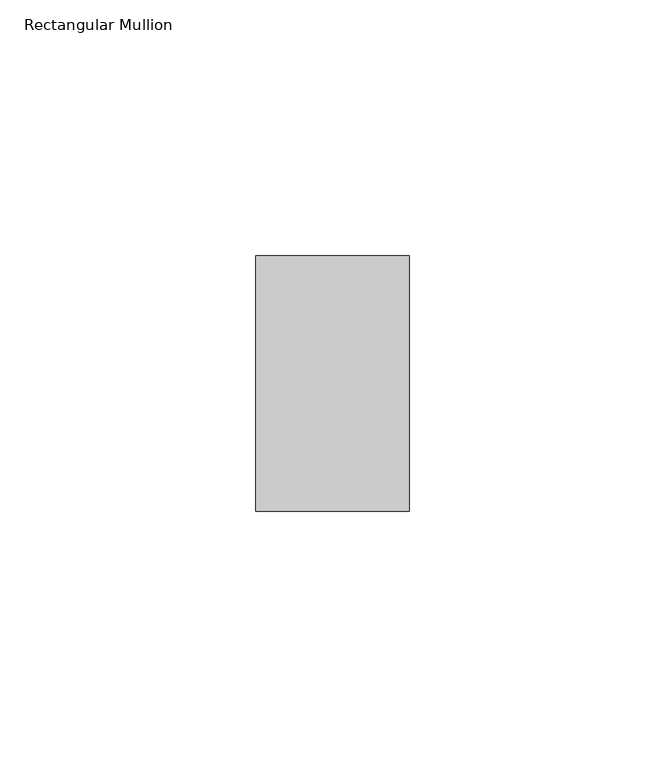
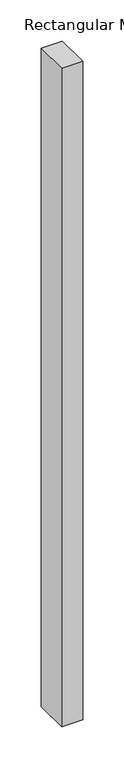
"""IFC4 building model written with IfcOpenShell, lengths in millimetres: member geometry, Rectangular Mullion : ARQ_TV_MULL_50x30mm."""

from ifc_helpers import new_model, si_unit, frame, origin, place, context, project, spatial, polyline, outline, extrude, source, transform, mapped, element, save


def rectangular_mullion_0c4cfd72(model_context):
    return source(origin(), model_context, "Body", "SweptSolid", [
        extrude(outline(polyline([(0.0, 25.0), (0.0, -25.0), (-30.0, -25.0), (-30.0, 25.0), (0.0, 25.0)])), frame((0.0, 0.0, -980.1431269), z_axis=(0.0, 0.0, 1.0), x_axis=(1.0, 0.0, 0.0)), (0.0, 0.0, 1.0), 980.1431269),
    ])


if __name__ == "__main__":
    model = new_model("IFC4")
    model_context = context("Model", 3, world=origin())
    ifc_project = project(units=[si_unit("LENGTHUNIT", "METRE", prefix="MILLI")], contexts=[model_context])
    site = spatial("IfcSite", under=ifc_project)
    building = spatial("IfcBuilding", under=site)
    placement = place(None, origin())
    rectangular_mullion_shape = rectangular_mullion_0c4cfd72(model_context)
    element("IfcMember", 1, ObjectType="Rectangular Mullion : ARQ_TV_MULL_50x30mm", at=placement, inside=building, context=model_context, shape_type="MappedRepresentation", body=[
        mapped(rectangular_mullion_shape, transform((0.0, 0.0, 0.0), x_axis=(1.0, 0.0, 0.0), y_axis=(0.0, 1.0, 0.0), z_axis=(0.0, 0.0, 1.0))),
    ])
    save(model, "model.ifc")
